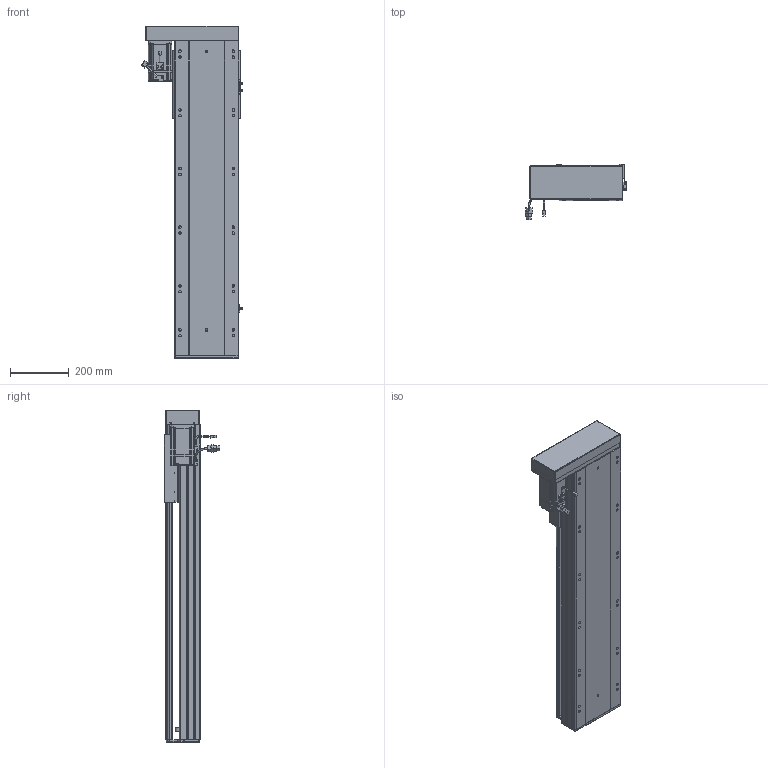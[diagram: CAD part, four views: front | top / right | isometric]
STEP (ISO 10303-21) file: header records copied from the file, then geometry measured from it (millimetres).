
FILE_DESCRIPTION (( 'STEP AP203' ), '1' );
FILE_NAME ('RY220-L2525-300-LK.SLDASM_750.step', '2022-07-04T01:46:44', ( '' ), ( '' ), 'SwSTEP 2.0', 'SolidWorks 2016', '' );
FILE_SCHEMA (( 'CONFIG_CONTROL_DESIGN' ));
Length unit declared in the file: millimetre
Products named in the file (12): 怢湛750W_ECMA-CX0807ES; 滅袉蝶18-10; RY220左右折电机安装板; RY220半封闭25-32螺母铝滑块; 覜茼ん672; RY220蛌殏菁釱-300_750; RY220-俋离672覜茼んえ; RY220酘衵殏萇儂欶; 滅袉蝶18-15; RY220-L2525-300-LK.SLDASM_750; RY220綴裔啣; RY220-300-蛌殏奻裔啣_750
Assembly tree (15 placements, depth 2):
  RY220-L2525-300-LK.SLDASM_750
    RY220蛌殏菁釱-300_750
    RY220-300-蛌殏奻裔啣_750
    怢湛750W_ECMA-CX0807ES
    滅袉蝶18-10  x2
    RY220-俋离672覜茼んえ
    覜茼ん672  x3
    RY220綴裔啣
    RY220半封闭25-32螺母铝滑块
    滅袉蝶18-15  x2
    RY220左右折电机安装板
    RY220酘衵殏萇儂欶
Bounding box: 347.44 x 189.27 x 1132 mm (x, y, z)
Volume: 9943484.9 mm3; surface area: 2849683.9 mm2
Topology: 16 solids, 16 shells, 2093 faces, 5772 edges, 3663 vertices
Faces by surface type: cylinder 929, plane 896, cone 198, bspline 44, sphere 16, torus 10
Entity records: 69085 total; most frequent: CARTESIAN_POINT 20155, ORIENTED_EDGE 10176, DIRECTION 9504, EDGE_CURVE 5088, AXIS2_PLACEMENT_3D 3319, VERTEX_POINT 3319, VECTOR 2866, LINE 2866
